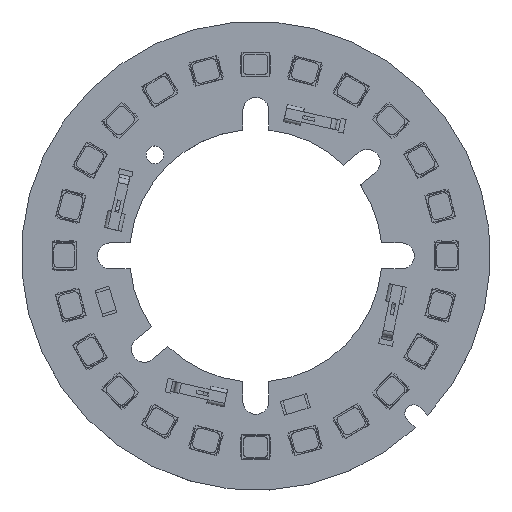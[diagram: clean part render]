
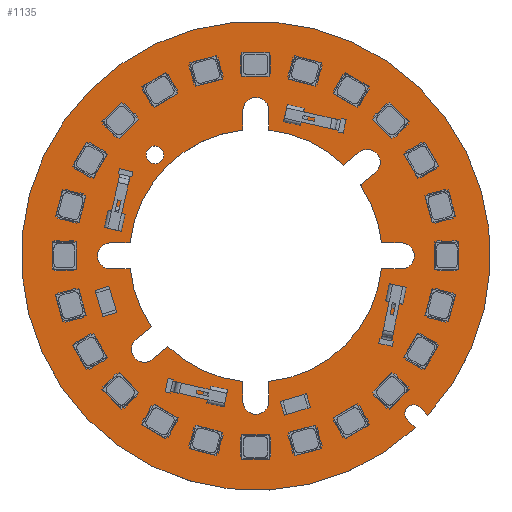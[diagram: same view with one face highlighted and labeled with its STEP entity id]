
A CAD part, top view. The second image highlights one B-rep face of the part: STEP entity #1135.
In plain terms, the highlighted planar face has unit normal (0, 0, 1).
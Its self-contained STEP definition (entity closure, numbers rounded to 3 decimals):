
#172 = VERTEX_POINT('',#173);
#173 = CARTESIAN_POINT('',(45.55,7.2,1.66));
#179 = EDGE_CURVE('',#172,#180,#182,.T.);
#180 = VERTEX_POINT('',#181);
#181 = CARTESIAN_POINT('',(47.,8.65,1.66));
#182 = CIRCLE('',#183,27.1);
#183 = AXIS2_PLACEMENT_3D('',#184,#185,#186);
#184 = CARTESIAN_POINT('',(27.126,27.074,1.66));
#185 = DIRECTION('',(0.,0.,-1.));
#186 = DIRECTION('',(0.68,-0.733,0.));
#212 = EDGE_CURVE('',#180,#213,#215,.T.);
#213 = VERTEX_POINT('',#214);
#214 = CARTESIAN_POINT('',(46.094,9.556,1.66));
#215 = LINE('',#216,#217);
#216 = CARTESIAN_POINT('',(47.,8.65,1.66));
#217 = VECTOR('',#218,1.);
#218 = DIRECTION('',(-0.707,0.707,0.));
#243 = EDGE_CURVE('',#213,#244,#246,.T.);
#244 = VERTEX_POINT('',#245);
#245 = CARTESIAN_POINT('',(44.645,8.106,1.66));
#246 = CIRCLE('',#247,1.025);
#247 = AXIS2_PLACEMENT_3D('',#248,#249,#250);
#248 = CARTESIAN_POINT('',(45.37,8.831,1.66));
#249 = DIRECTION('',(0.,0.,1.));
#250 = DIRECTION('',(0.707,0.707,-0.));
#276 = EDGE_CURVE('',#244,#172,#277,.T.);
#277 = LINE('',#278,#279);
#278 = CARTESIAN_POINT('',(44.645,8.106,1.66));
#279 = VECTOR('',#280,1.);
#280 = DIRECTION('',(0.707,-0.707,0.));
#300 = VERTEX_POINT('',#301);
#301 = CARTESIAN_POINT('',(16.965,16.59,1.66));
#307 = EDGE_CURVE('',#300,#308,#310,.T.);
#308 = VERTEX_POINT('',#309);
#309 = CARTESIAN_POINT('',(15.221,15.126,1.66));
#310 = LINE('',#311,#312);
#311 = CARTESIAN_POINT('',(16.965,16.59,1.66));
#312 = VECTOR('',#313,1.);
#313 = DIRECTION('',(-0.766,-0.643,0.));
#340 = VERTEX_POINT('',#341);
#341 = CARTESIAN_POINT('',(25.626,12.551,1.66));
#347 = EDGE_CURVE('',#340,#300,#348,.T.);
#348 = CIRCLE('',#349,14.605);
#349 = AXIS2_PLACEMENT_3D('',#350,#351,#352);
#350 = CARTESIAN_POINT('',(27.129,27.079,1.66));
#351 = DIRECTION('',(0.,0.,-1.));
#352 = DIRECTION('',(-0.103,-0.995,-0.));
#373 = VERTEX_POINT('',#374);
#374 = CARTESIAN_POINT('',(25.626,10.274,1.66));
#380 = EDGE_CURVE('',#373,#340,#381,.T.);
#381 = LINE('',#382,#383);
#382 = CARTESIAN_POINT('',(25.626,10.274,1.66));
#383 = VECTOR('',#384,1.);
#384 = DIRECTION('',(0.,1.,0.));
#404 = VERTEX_POINT('',#405);
#405 = CARTESIAN_POINT('',(28.626,10.274,1.66));
#411 = EDGE_CURVE('',#404,#373,#412,.T.);
#412 = CIRCLE('',#413,1.5);
#413 = AXIS2_PLACEMENT_3D('',#414,#415,#416);
#414 = CARTESIAN_POINT('',(27.126,10.274,1.66));
#415 = DIRECTION('',(0.,0.,-1.));
#416 = DIRECTION('',(1.,0.,0.));
#437 = VERTEX_POINT('',#438);
#438 = CARTESIAN_POINT('',(28.626,12.551,1.66));
#444 = EDGE_CURVE('',#437,#404,#445,.T.);
#445 = LINE('',#446,#447);
#446 = CARTESIAN_POINT('',(28.626,12.551,1.66));
#447 = VECTOR('',#448,1.);
#448 = DIRECTION('',(0.,-1.,0.));
#468 = VERTEX_POINT('',#469);
#469 = CARTESIAN_POINT('',(41.649,25.574,1.66));
#475 = EDGE_CURVE('',#468,#437,#476,.T.);
#476 = CIRCLE('',#477,14.6);
#477 = AXIS2_PLACEMENT_3D('',#478,#479,#480);
#478 = CARTESIAN_POINT('',(27.126,27.074,1.66));
#479 = DIRECTION('',(0.,0.,-1.));
#480 = DIRECTION('',(0.995,-0.103,0.));
#501 = VERTEX_POINT('',#502);
#502 = CARTESIAN_POINT('',(43.926,25.574,1.66));
#508 = EDGE_CURVE('',#501,#468,#509,.T.);
#509 = LINE('',#510,#511);
#510 = CARTESIAN_POINT('',(43.926,25.574,1.66));
#511 = VECTOR('',#512,1.);
#512 = DIRECTION('',(-1.,0.,0.));
#532 = VERTEX_POINT('',#533);
#533 = CARTESIAN_POINT('',(43.926,28.574,1.66));
#539 = EDGE_CURVE('',#532,#501,#540,.T.);
#540 = CIRCLE('',#541,1.5);
#541 = AXIS2_PLACEMENT_3D('',#542,#543,#544);
#542 = CARTESIAN_POINT('',(43.926,27.074,1.66));
#543 = DIRECTION('',(0.,0.,-1.));
#544 = DIRECTION('',(0.,1.,0.));
#565 = VERTEX_POINT('',#566);
#566 = CARTESIAN_POINT('',(41.649,28.574,1.66));
#572 = EDGE_CURVE('',#565,#532,#573,.T.);
#573 = LINE('',#574,#575);
#574 = CARTESIAN_POINT('',(41.649,28.574,1.66));
#575 = VECTOR('',#576,1.);
#576 = DIRECTION('',(1.,0.,0.));
#596 = VERTEX_POINT('',#597);
#597 = CARTESIAN_POINT('',(39.216,35.26,1.66));
#603 = EDGE_CURVE('',#596,#565,#604,.T.);
#604 = CIRCLE('',#605,14.595);
#605 = AXIS2_PLACEMENT_3D('',#606,#607,#608);
#606 = CARTESIAN_POINT('',(27.131,27.077,1.66));
#607 = DIRECTION('',(0.,0.,-1.));
#608 = DIRECTION('',(0.828,0.561,0.));
#629 = VERTEX_POINT('',#630);
#630 = CARTESIAN_POINT('',(40.96,36.724,1.66));
#636 = EDGE_CURVE('',#629,#596,#637,.T.);
#637 = LINE('',#638,#639);
#638 = CARTESIAN_POINT('',(40.96,36.724,1.66));
#639 = VECTOR('',#640,1.);
#640 = DIRECTION('',(-0.766,-0.643,0.));
#660 = VERTEX_POINT('',#661);
#661 = CARTESIAN_POINT('',(39.032,39.022,1.66));
#667 = EDGE_CURVE('',#660,#629,#668,.T.);
#668 = CIRCLE('',#669,1.5);
#669 = AXIS2_PLACEMENT_3D('',#670,#671,#672);
#670 = CARTESIAN_POINT('',(39.996,37.873,1.66));
#671 = DIRECTION('',(0.,0.,-1.));
#672 = DIRECTION('',(-0.643,0.766,-0.));
#693 = VERTEX_POINT('',#694);
#694 = CARTESIAN_POINT('',(37.287,37.558,1.66));
#700 = EDGE_CURVE('',#693,#660,#701,.T.);
#701 = LINE('',#702,#703);
#702 = CARTESIAN_POINT('',(37.287,37.558,1.66));
#703 = VECTOR('',#704,1.);
#704 = DIRECTION('',(0.766,0.643,0.));
#724 = VERTEX_POINT('',#725);
#725 = CARTESIAN_POINT('',(28.626,41.597,1.66));
#731 = EDGE_CURVE('',#724,#693,#732,.T.);
#732 = CIRCLE('',#733,14.598);
#733 = AXIS2_PLACEMENT_3D('',#734,#735,#736);
#734 = CARTESIAN_POINT('',(27.126,27.076,1.66));
#735 = DIRECTION('',(0.,0.,-1.));
#736 = DIRECTION('',(0.103,0.995,0.));
#757 = VERTEX_POINT('',#758);
#758 = CARTESIAN_POINT('',(28.626,43.874,1.66));
#764 = EDGE_CURVE('',#757,#724,#765,.T.);
#765 = LINE('',#766,#767);
#766 = CARTESIAN_POINT('',(28.626,43.874,1.66));
#767 = VECTOR('',#768,1.);
#768 = DIRECTION('',(0.,-1.,0.));
#788 = VERTEX_POINT('',#789);
#789 = CARTESIAN_POINT('',(25.626,43.874,1.66));
#795 = EDGE_CURVE('',#788,#757,#796,.T.);
#796 = CIRCLE('',#797,1.5);
#797 = AXIS2_PLACEMENT_3D('',#798,#799,#800);
#798 = CARTESIAN_POINT('',(27.126,43.874,1.66));
#799 = DIRECTION('',(0.,0.,-1.));
#800 = DIRECTION('',(-1.,0.,0.));
#821 = VERTEX_POINT('',#822);
#822 = CARTESIAN_POINT('',(25.626,41.597,1.66));
#828 = EDGE_CURVE('',#821,#788,#829,.T.);
#829 = LINE('',#830,#831);
#830 = CARTESIAN_POINT('',(25.626,41.597,1.66));
#831 = VECTOR('',#832,1.);
#832 = DIRECTION('',(0.,1.,0.));
#852 = VERTEX_POINT('',#853);
#853 = CARTESIAN_POINT('',(12.604,28.574,1.66));
#859 = EDGE_CURVE('',#852,#821,#860,.T.);
#860 = CIRCLE('',#861,14.6);
#861 = AXIS2_PLACEMENT_3D('',#862,#863,#864);
#862 = CARTESIAN_POINT('',(27.127,27.074,1.66));
#863 = DIRECTION('',(0.,0.,-1.));
#864 = DIRECTION('',(-0.995,0.103,0.));
#885 = VERTEX_POINT('',#886);
#886 = CARTESIAN_POINT('',(10.326,28.574,1.66));
#892 = EDGE_CURVE('',#885,#852,#893,.T.);
#893 = LINE('',#894,#895);
#894 = CARTESIAN_POINT('',(10.326,28.574,1.66));
#895 = VECTOR('',#896,1.);
#896 = DIRECTION('',(1.,0.,0.));
#916 = VERTEX_POINT('',#917);
#917 = CARTESIAN_POINT('',(10.326,25.574,1.66));
#923 = EDGE_CURVE('',#916,#885,#924,.T.);
#924 = CIRCLE('',#925,1.5);
#925 = AXIS2_PLACEMENT_3D('',#926,#927,#928);
#926 = CARTESIAN_POINT('',(10.326,27.074,1.66));
#927 = DIRECTION('',(0.,0.,-1.));
#928 = DIRECTION('',(0.,-1.,0.));
#949 = VERTEX_POINT('',#950);
#950 = CARTESIAN_POINT('',(12.604,25.574,1.66));
#956 = EDGE_CURVE('',#949,#916,#957,.T.);
#957 = LINE('',#958,#959);
#958 = CARTESIAN_POINT('',(12.604,25.574,1.66));
#959 = VECTOR('',#960,1.);
#960 = DIRECTION('',(-1.,0.,0.));
#980 = VERTEX_POINT('',#981);
#981 = CARTESIAN_POINT('',(15.037,18.888,1.66));
#987 = EDGE_CURVE('',#980,#949,#988,.T.);
#988 = CIRCLE('',#989,14.606);
#989 = AXIS2_PLACEMENT_3D('',#990,#991,#992);
#990 = CARTESIAN_POINT('',(27.132,27.075,1.66));
#991 = DIRECTION('',(0.,0.,-1.));
#992 = DIRECTION('',(-0.828,-0.561,-0.));
#1013 = VERTEX_POINT('',#1014);
#1014 = CARTESIAN_POINT('',(13.293,17.424,1.66));
#1020 = EDGE_CURVE('',#1013,#980,#1021,.T.);
#1021 = LINE('',#1022,#1023);
#1022 = CARTESIAN_POINT('',(13.293,17.424,1.66));
#1023 = VECTOR('',#1024,1.);
#1024 = DIRECTION('',(0.766,0.643,0.));
#1042 = EDGE_CURVE('',#308,#1013,#1043,.T.);
#1043 = CIRCLE('',#1044,1.5);
#1044 = AXIS2_PLACEMENT_3D('',#1045,#1046,#1047);
#1045 = CARTESIAN_POINT('',(14.257,16.275,1.66));
#1046 = DIRECTION('',(0.,0.,-1.));
#1047 = DIRECTION('',(0.643,-0.766,0.));
#1068 = VERTEX_POINT('',#1069);
#1069 = CARTESIAN_POINT('',(16.484,38.741,1.66));
#1075 = EDGE_CURVE('',#1068,#1068,#1076,.T.);
#1076 = CIRCLE('',#1077,1.025);
#1077 = AXIS2_PLACEMENT_3D('',#1078,#1079,#1080);
#1078 = CARTESIAN_POINT('',(15.459,38.741,1.66));
#1079 = DIRECTION('',(0.,0.,1.));
#1080 = DIRECTION('',(1.,0.,-0.));
#1135 = ADVANCED_FACE('',(#1136,#1142,#1168),#1171,.F.);
#1136 = FACE_BOUND('',#1137,.F.);
#1137 = EDGE_LOOP('',(#1138,#1139,#1140,#1141));
#1138 = ORIENTED_EDGE('',*,*,#179,.T.);
#1139 = ORIENTED_EDGE('',*,*,#212,.T.);
#1140 = ORIENTED_EDGE('',*,*,#243,.T.);
#1141 = ORIENTED_EDGE('',*,*,#276,.T.);
#1142 = FACE_BOUND('',#1143,.F.);
#1143 = EDGE_LOOP('',(#1144,#1145,#1146,#1147,#1148,#1149,#1150,#1151,
    #1152,#1153,#1154,#1155,#1156,#1157,#1158,#1159,#1160,#1161,#1162,
    #1163,#1164,#1165,#1166,#1167));
#1144 = ORIENTED_EDGE('',*,*,#307,.F.);
#1145 = ORIENTED_EDGE('',*,*,#347,.F.);
#1146 = ORIENTED_EDGE('',*,*,#380,.F.);
#1147 = ORIENTED_EDGE('',*,*,#411,.F.);
#1148 = ORIENTED_EDGE('',*,*,#444,.F.);
#1149 = ORIENTED_EDGE('',*,*,#475,.F.);
#1150 = ORIENTED_EDGE('',*,*,#508,.F.);
#1151 = ORIENTED_EDGE('',*,*,#539,.F.);
#1152 = ORIENTED_EDGE('',*,*,#572,.F.);
#1153 = ORIENTED_EDGE('',*,*,#603,.F.);
#1154 = ORIENTED_EDGE('',*,*,#636,.F.);
#1155 = ORIENTED_EDGE('',*,*,#667,.F.);
#1156 = ORIENTED_EDGE('',*,*,#700,.F.);
#1157 = ORIENTED_EDGE('',*,*,#731,.F.);
#1158 = ORIENTED_EDGE('',*,*,#764,.F.);
#1159 = ORIENTED_EDGE('',*,*,#795,.F.);
#1160 = ORIENTED_EDGE('',*,*,#828,.F.);
#1161 = ORIENTED_EDGE('',*,*,#859,.F.);
#1162 = ORIENTED_EDGE('',*,*,#892,.F.);
#1163 = ORIENTED_EDGE('',*,*,#923,.F.);
#1164 = ORIENTED_EDGE('',*,*,#956,.F.);
#1165 = ORIENTED_EDGE('',*,*,#987,.F.);
#1166 = ORIENTED_EDGE('',*,*,#1020,.F.);
#1167 = ORIENTED_EDGE('',*,*,#1042,.F.);
#1168 = FACE_BOUND('',#1169,.F.);
#1169 = EDGE_LOOP('',(#1170));
#1170 = ORIENTED_EDGE('',*,*,#1075,.T.);
#1171 = PLANE('',#1172);
#1172 = AXIS2_PLACEMENT_3D('',#1173,#1174,#1175);
#1173 = CARTESIAN_POINT('',(27.694,26.506,1.66));
#1174 = DIRECTION('',(-0.,-0.,-1.));
#1175 = DIRECTION('',(-1.,0.,0.));
